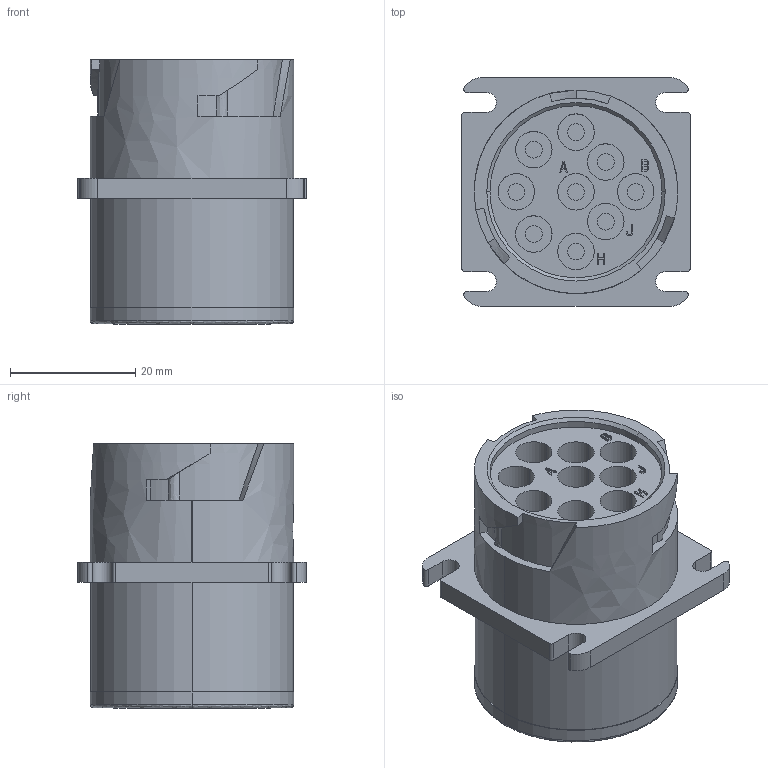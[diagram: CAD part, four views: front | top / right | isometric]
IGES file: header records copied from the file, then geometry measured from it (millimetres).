
Start section:  PTC IGES file: c-hd10-9-96p-b009-99-3d.igs
Global section: file name: c-hd10-9-96p-b009-99-3d.igs; native system: Pro/ENGINEER by Parametric Technology Corporation; preprocessor: 2011490; author: workeradm; organization: Unknown; units: millimetre
Bounding box: 36.5 x 36.5 x 42.24 mm (x, y, z)
Surface area: 9143.9 mm2 (no closed solid volume)
Topology: 0 solids, 0 shells, 313 faces, 1498 edges, 1498 vertices
Faces by surface type: bspline 166, revolution 147
